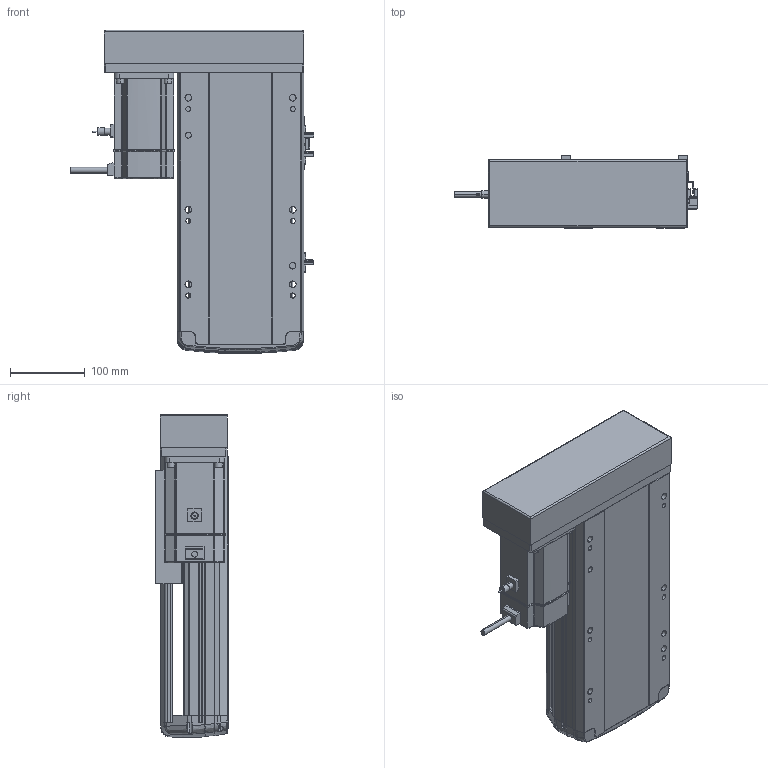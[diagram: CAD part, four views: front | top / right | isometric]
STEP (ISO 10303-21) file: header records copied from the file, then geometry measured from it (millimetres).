
FILE_DESCRIPTION (( 'STEP AP214' ), '1' );
FILE_NAME ('RTH17-XX-150-R-M75-C4.STEP', '2025-10-24T10:04:11', ( '' ), ( '' ), 'SwSTEP 2.0', 'SolidWorks 2018', '' );
FILE_SCHEMA (( 'AUTOMOTIVE_DESIGN' ));
Length unit declared in the file: millimetre
Products named in the file (10): N_RTH-L-012 感应片(外置)^RTH17-XX-XX-R-M75-C4（方程式）; N_RTH17-E-004丝杆螺母连接座^RTH17-XX-XX-R-M75-C4（方程式）; N_M75^RTH17-XX-XX-R-M75-C4（方程式）; N_RTH17-L-018盖子^RTH17-XX-XX-R-M75-C4（方程式）; RTH17-XX-150-R-M75-C4; N_RTH17-M-007上盖^RTH17-XX-XX-R-M75-C4（方程式）; N_RTH17-GY-001P^RTH17-XX-XX-R-M75-C4（方程式）; N_RTH17-M-011底座^RTH17-XX-XX-R-M75-C4（方程式）; N_RTH17-L-008-P75电机安装板左转折^RTH17-XX-XX-R-M75-C4（方程式）; N_OMRON EE-SX672 換覜ん^RTH17-XX-XX-R-M75-C4ㄗ源最宒ㄘ
Assembly tree (11 placements, depth 2):
  RTH17-XX-150-R-M75-C4
    N_RTH17-M-011底座^RTH17-XX-XX-R-M75-C4（方程式）
    N_RTH17-M-007上盖^RTH17-XX-XX-R-M75-C4（方程式）
    N_M75^RTH17-XX-XX-R-M75-C4（方程式）
    N_OMRON EE-SX672 換覜ん^RTH17-XX-XX-R-M75-C4ㄗ源最宒ㄘ  x3
    N_RTH-L-012 感应片(外置)^RTH17-XX-XX-R-M75-C4（方程式）
    N_RTH17-L-008-P75电机安装板左转折^RTH17-XX-XX-R-M75-C4（方程式）
    N_RTH17-L-018盖子^RTH17-XX-XX-R-M75-C4（方程式）
    N_RTH17-E-004丝杆螺母连接座^RTH17-XX-XX-R-M75-C4（方程式）
    N_RTH17-GY-001P^RTH17-XX-XX-R-M75-C4（方程式）
Bounding box: 326.2 x 97 x 433.07 mm (x, y, z)
Volume: 5367235 mm3; surface area: 677658.8 mm2
Topology: 13 solids, 15 shells, 1709 faces, 4673 edges, 3022 vertices
Faces by surface type: plane 827, cylinder 468, bspline 377, cone 28, torus 9
Entity records: 49097 total; most frequent: CARTESIAN_POINT 19733, ORIENTED_EDGE 6370, DIRECTION 5293, EDGE_CURVE 3189, VERTEX_POINT 2058, AXIS2_PLACEMENT_3D 1765, VECTOR 1763, LINE 1763
